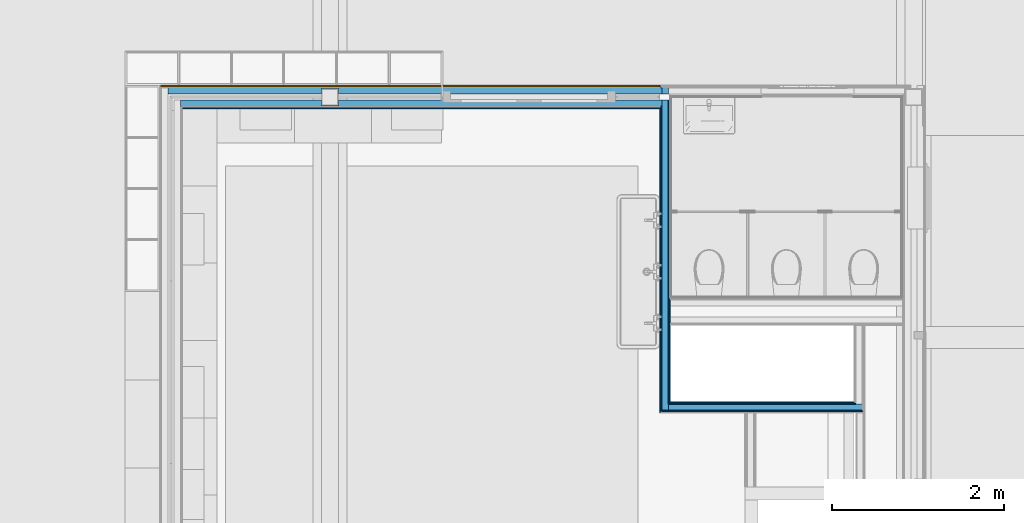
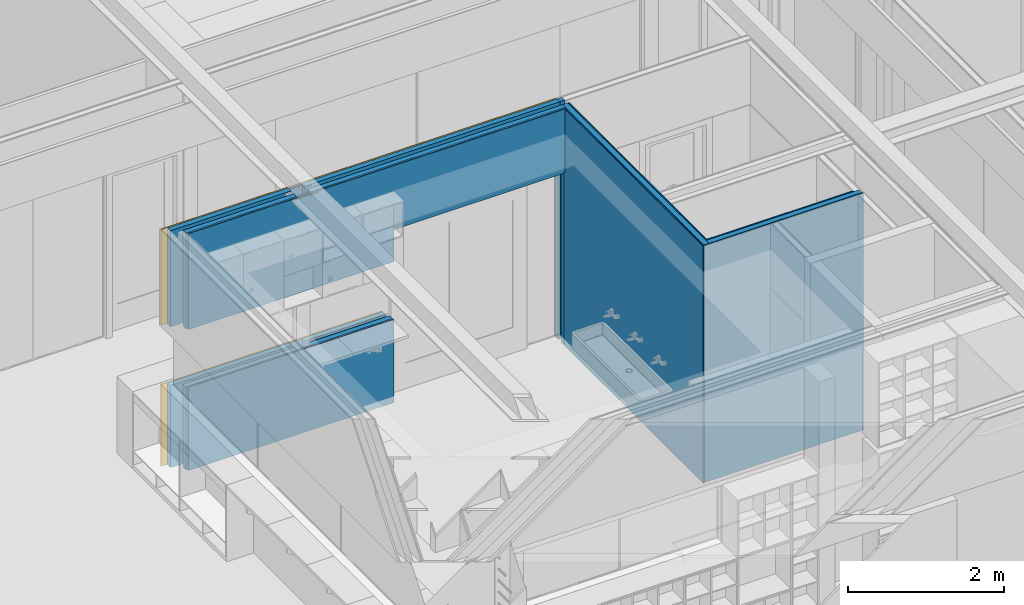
# One storey, part 85 of 137: 12 building element parts, 1 covering, 4 openings, 3 elements without a shape of their own.
"""IFC2X3 building model written with IfcOpenShell, lengths in millimetres."""

from ifc_helpers import new_model, entity, si_unit, converted_unit, derived_unit, money_unit, direction, frame, origin_with_axes, place, context, subcontext, project, spatial, faceted_brep, material, type_object, element, aggregate, save


model = new_model("IFC2X3")

# Units and contexts
model_context = context("Model", 3, precision=0.01, world=origin_with_axes(), true_north=direction((0.0, 1.0)))
body_context = subcontext(model_context, "Body", "Model", "MODEL_VIEW")
ifc_project = project(units=[si_unit("LENGTHUNIT", "METRE", prefix="MILLI"), si_unit("AREAUNIT", "SQUARE_METRE"), si_unit("VOLUMEUNIT", "CUBIC_METRE"), converted_unit("PLANEANGLEUNIT", "DEGREE", entity("IfcPlaneAngleMeasure", 0.0174532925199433), si_unit("PLANEANGLEUNIT", "RADIAN"), dimensions=[0, 0, 0, 0, 0, 0, 0]), money_unit("EUR"), converted_unit("TIMEUNIT", "Year", entity("IfcTimeMeasure", 31556926.0), si_unit("TIMEUNIT", "SECOND"), dimensions=[0, 0, 1, 0, 0, 0, 0]), si_unit("MASSUNIT", "GRAM", prefix="KILO"), si_unit("THERMODYNAMICTEMPERATUREUNIT", "DEGREE_CELSIUS"), si_unit("LUMINOUSINTENSITYUNIT", "LUMEN"), si_unit("ENERGYUNIT", "JOULE", prefix="MEGA"), derived_unit("THERMALCONDUCTANCEUNIT", [(si_unit("POWERUNIT", "WATT"), 1), (si_unit("LENGTHUNIT", "METRE"), -1), (si_unit("THERMODYNAMICTEMPERATUREUNIT", "KELVIN"), -1)]), derived_unit("SPECIFICHEATCAPACITYUNIT", [(si_unit("ENERGYUNIT", "JOULE"), 1), (si_unit("MASSUNIT", "GRAM", prefix="KILO"), -1), (si_unit("THERMODYNAMICTEMPERATUREUNIT", "KELVIN"), -1)]), derived_unit("MASSDENSITYUNIT", [(si_unit("MASSUNIT", "GRAM", prefix="KILO"), 1), (si_unit("VOLUMEUNIT", "CUBIC_METRE"), -1)])], contexts=[model_context])

# Site, building, storey
site_placement = place(None, origin_with_axes())
site = spatial("IfcSite", under=ifc_project, at=site_placement, Name="Site", CompositionType="ELEMENT")
building_placement = place(site_placement, origin_with_axes())
building = spatial("IfcBuilding", under=site, at=building_placement, Name="Naam gebouw", CompositionType="ELEMENT")
storey_placement = place(building_placement, frame((0.0, 0.0, 3960.0), z_axis=(0.0, 0.0, 1.0), x_axis=(1.0, 0.0, 0.0)))
storey = spatial("IfcBuildingStorey", under=building, at=storey_placement, Name="1e verdieping", CompositionType="ELEMENT", Elevation=3960.0)

# Proxy, openings, covering, building element parts
building_element_proxy_type_1 = type_object("IfcBuildingElementProxyType", Name="22 Metal stud 270 oregon pine 270", PredefinedType="NOTDEFINED")
proxy_1_placement = place(storey_placement, frame((15849.99908339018, 19449.9998112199, -100.0000000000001), z_axis=(0.0, 0.0, 1.0), x_axis=(1.0, 0.0, 0.0)))
proxy_1 = element("IfcBuildingElementProxy", 1, at=proxy_1_placement, inside=storey, type_object=building_element_proxy_type_1, Name="_Wand-x")
opening_1_placement = place(proxy_1_placement, frame((2557.500148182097, 0.0, 1300.0), z_axis=(0.0, 0.0, 1.0), x_axis=(1.0, 0.0, 0.0)))
element("IfcOpeningElement", 2, at=opening_1_placement, cuts=proxy_1, Name="_D.05", context=body_context, shape_type="Brep", body=[
    faceted_brep([(-807.5002251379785, 9.99999999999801, 0.0), (-807.5002251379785, 9.99999999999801, 900.0000000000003), (-807.5002251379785, 136.0000000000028, 900.0000000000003), (-807.5002251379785, 136.0000000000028, 0.0), (-807.5002251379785, -136.0000000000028, 0.0), (-807.5002251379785, -136.0000000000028, 900.0000000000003), (607.5002251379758, 9.99999999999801, 900.0000000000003), (607.5002251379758, 136.0000000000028, 900.0000000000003), (607.5002251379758, -136.0000000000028, 900.0000000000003), (607.5002251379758, 136.0000000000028, 0.0), (607.5002251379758, 9.99999999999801, 0.0), (607.5002251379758, -136.0000000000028, 0.0)], [[[0, 1, 2, 3]], [[1, 0, 4, 5]], [[6, 7, 2, 1, 5, 8]], [[7, 9, 3, 2]], [[0, 3, 9, 10, 11, 4]], [[5, 4, 11, 8]], [[6, 10, 9, 7]], [[10, 6, 8, 11]]]),
])
opening_2_placement = place(proxy_1_placement, frame((5432.50016496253, 0.0, 100.0000000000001), z_axis=(0.0, 0.0, 1.0), x_axis=(1.0, 0.0, 0.0)))
element("IfcOpeningElement", 3, at=opening_2_placement, cuts=proxy_1, Name="_B.12", context=body_context, shape_type="Brep", body=[
    faceted_brep([(-257.4997916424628, 9.99999999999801, -100.0000000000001), (-257.4997916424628, 9.99999999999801, 2600.0), (-257.4997916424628, 136.0000000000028, 2600.0), (-257.4997916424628, 136.0000000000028, -100.0000000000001), (-257.4997916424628, -136.0000000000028, -100.0000000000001), (-257.4997916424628, -136.0000000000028, 2600.0), (257.4997916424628, 9.99999999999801, 2600.0), (257.4997916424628, 136.0000000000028, 2600.0), (257.4997916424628, -136.0000000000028, 2600.0), (257.4997916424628, 136.0000000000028, -100.0000000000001), (257.4997916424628, 9.99999999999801, -100.0000000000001), (257.4997916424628, -136.0000000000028, -100.0000000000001)], [[[0, 1, 2, 3]], [[1, 0, 4, 5]], [[6, 7, 2, 1, 5, 8]], [[7, 9, 3, 2]], [[0, 3, 9, 10, 11, 4]], [[5, 4, 11, 8]], [[6, 10, 9, 7]], [[10, 6, 8, 11]]]),
])
opening_3_placement = place(proxy_1_placement, frame((879.9957715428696, 0.0, 1300.0), z_axis=(0.0, 0.0, 1.0), x_axis=(1.0, 0.0, 0.0)))
element("IfcOpeningElement", 4, at=opening_3_placement, cuts=proxy_1, Name="_D.03", context=body_context, shape_type="Brep", body=[
    faceted_brep([(-1015.004151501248, 135.0083722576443, 900.0000000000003), (-1015.004151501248, 136.0000000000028, 900.0000000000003), (-1015.004151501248, 136.0000000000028, 0.0), (-1015.004151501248, 135.0083722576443, 0.0), (870.0041515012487, 9.99999999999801, 900.0000000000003), (870.0041515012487, 136.0000000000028, 900.0000000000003), (-743.9957637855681, -136.0000000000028, 900.0000000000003), (870.0041515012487, -136.0000000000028, 900.0000000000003), (870.0041515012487, 136.0000000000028, 0.0), (870.0041515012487, 9.99999999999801, 0.0), (870.0041515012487, -136.0000000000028, 0.0), (-743.9957637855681, -136.0000000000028, 0.0)], [[[0, 1, 2, 3]], [[4, 5, 1, 0, 6, 7]], [[5, 8, 2, 1]], [[3, 2, 8, 9, 10, 11]], [[0, 3, 11, 6]], [[4, 9, 8, 5]], [[11, 10, 7, 6]], [[9, 4, 7, 10]]]),
])
opening_4_placement = place(proxy_1_placement, frame((4170.000373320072, 0.0, 100.0000000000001), z_axis=(0.0, 0.0, 1.0), x_axis=(1.0, 0.0, 0.0)))
element("IfcOpeningElement", 5, at=opening_4_placement, cuts=proxy_1, Name="_03.02", context=body_context, shape_type="Brep", body=[
    faceted_brep([(-1004.999999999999, 72.49999999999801, 2600.0), (1004.999999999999, 72.49999999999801, 2600.0), (1004.999999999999, 136.0000000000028, 2600.0), (-1004.999999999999, 136.0000000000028, 2600.0), (-1004.999999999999, -136.0000000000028, 2600.0), (1004.999999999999, -136.0000000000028, 2600.0), (1004.999999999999, 72.49999999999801, -100.0000000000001), (1004.999999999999, 136.0000000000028, -100.0000000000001), (-1004.999999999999, 136.0000000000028, -100.0000000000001), (-1004.999999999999, 72.49999999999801, -100.0000000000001), (-1004.999999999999, -136.0000000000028, -100.0000000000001), (1004.999999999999, -136.0000000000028, -100.0000000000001)], [[[0, 1, 2, 3]], [[1, 0, 4, 5]], [[1, 6, 7, 2]], [[2, 7, 8, 3]], [[9, 0, 3, 8]], [[0, 9, 10, 4]], [[4, 10, 11, 5]], [[6, 1, 5, 11]], [[6, 9, 8, 7]], [[9, 6, 11, 10]]]),
])
ifc_material_1 = material(Name="Hout - Multiplex Oregon Pine")
covering_placement = place(proxy_1_placement, origin_with_axes())
covering = element("IfcCovering", 6, at=covering_placement, material=ifc_material_1, Name="Hout - Multiplex Oregon Pine", PredefinedType="NOTDEFINED", context=body_context, shape_type="Brep", body=[
    faceted_brep([(-122.5000077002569, 134.999999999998, 1280.000000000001), (3145.000373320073, 134.999999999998, 1280.000000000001), (3145.000373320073, 134.999999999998, 100.0000000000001), (3165.000373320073, 134.999999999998, 100.0000000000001), (3165.000373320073, 135.0000000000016, 0.0), (-122.5000077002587, 135.0000000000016, 0.0), (3145.000373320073, 122.5000000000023, 1280.000000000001), (-122.5000069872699, 122.4999999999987, 1280.000000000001), (3145.000373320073, 122.5000000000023, 100.0000000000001), (3165.000373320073, 122.4999999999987, 100.0000000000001), (3165.000373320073, 122.4999999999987, 0.0), (-122.5000069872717, 122.4999999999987, 0.0)], [[[0, 1, 2, 3, 4, 5]], [[6, 1, 0, 7]], [[1, 6, 8, 2]], [[8, 9, 3, 2]], [[4, 3, 9, 10]], [[10, 11, 5, 4]], [[7, 0, 5, 11]], [[6, 7, 11, 10, 9, 8]]]),
    faceted_brep([(1749.999923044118, 122.5000000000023, 2200.0), (-122.5000069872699, 122.4999999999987, 2200.0), (-122.5000077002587, 135.0000193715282, 2200.0), (3165.000373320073, 135.0000000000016, 2200.0), (3165.000373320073, 122.5000000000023, 2200.0), (3165.000373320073, 122.5000000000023, 2700.0), (5175.000373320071, 122.5000000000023, 2700.0), (5689.999956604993, 122.5000000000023, 2700.0), (5689.999956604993, 122.5000000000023, 3700.0), (1951.000341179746, 122.4999999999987, 3700.0), (1951.000341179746, 122.5000000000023, 3695.000029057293), (2050.000341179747, 122.5000000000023, 3695.000029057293), (2050.000341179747, 122.5000000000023, 3675.000029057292), (1650.000341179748, 122.5000000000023, 3675.000029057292), (1650.000341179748, 122.5000000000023, 3695.000029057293), (1749.000341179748, 122.5000000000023, 3695.000029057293), (1749.000341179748, 122.4999999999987, 3700.0), (-122.5000069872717, 122.4999999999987, 3700.0), (-122.5000077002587, 135.0000000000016, 3700.0), (1749.000341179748, 135.0000000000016, 3700.0), (1749.000341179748, 135.0000000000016, 3695.000029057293), (1650.000341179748, 135.0000000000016, 3695.000029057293), (1650.000341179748, 135.0000000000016, 3675.000029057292), (2050.000341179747, 135.0000000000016, 3675.000029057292), (2050.000341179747, 135.0000000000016, 3695.000029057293), (1951.000341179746, 135.0000000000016, 3695.000029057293), (1951.000341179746, 135.0000000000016, 3700.0), (5689.999956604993, 135.0000000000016, 3700.0), (5689.999956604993, 135.0000000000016, 2700.0), (5175.000373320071, 135.0000000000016, 2700.0), (3165.000373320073, 135.0000000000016, 2700.0)], [[[0, 1, 2, 3, 4]], [[1, 0, 4, 5, 6, 7, 8, 9, 10, 11, 12, 13, 14, 15, 16, 17]], [[2, 1, 17, 18]], [[2, 18, 19, 20, 21, 22, 23, 24, 25, 26, 27, 28, 29, 30, 3]], [[4, 3, 30, 5]], [[5, 30, 29, 6]], [[7, 6, 29, 28]], [[7, 28, 27, 8]], [[8, 27, 26, 9]], [[25, 10, 9, 26]], [[11, 10, 25, 24]], [[12, 11, 24, 23]], [[13, 12, 23, 22]], [[14, 13, 22, 21]], [[15, 14, 21, 20]], [[16, 15, 20, 19]], [[18, 17, 16, 19]]]),
    faceted_brep([(1755.000341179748, 135.0000000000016, 3700.0), (1755.000341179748, 122.4999999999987, 3700.0), (1945.000341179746, 122.4999999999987, 3700.0), (1945.000341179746, 135.0000000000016, 3700.0), (1755.000341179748, 135.0000000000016, 3695.000029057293), (1755.000341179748, 122.5000000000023, 3695.000029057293), (1945.000341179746, 122.5000000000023, 3695.000029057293), (1945.000341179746, 135.0000000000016, 3695.000029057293)], [[[0, 1, 2, 3]], [[1, 0, 4, 5]], [[6, 2, 1, 5]], [[7, 3, 2, 6]], [[4, 0, 3, 7]], [[4, 7, 6, 5]]]),
])
ifc_material_2 = material(Name="ALG - LICHTE SCHEIDINGSWAND")
building_element_part_1_placement = place(proxy_1_placement, origin_with_axes())
building_element_part_1 = element("IfcBuildingElementPart", 7, at=building_element_part_1_placement, material=ifc_material_2, Name="ALG - LICHTE SCHEIDINGSWAND", context=body_context, shape_type="Brep", body=[
    faceted_brep([(-35.00000627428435, 109.9999999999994, 1280.000000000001), (3145.000373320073, 109.9999999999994, 1280.000000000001), (3145.000373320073, 109.9999999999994, 100.0000000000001), (3165.000373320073, 109.9999999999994, 100.0000000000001), (3165.000373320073, 109.9999999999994, 0.0), (-35.00000627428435, 109.9999999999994, 0.0), (3145.000373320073, 35.00000000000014, 1280.000000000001), (-35.00000199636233, 35.00000000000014, 1280.000000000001), (1749.999929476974, 35.00000000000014, 1280.000000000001), (1749.999929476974, 100.0000000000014, 1280.000000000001), (1950.000341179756, 100.0000000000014, 1280.000000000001), (1950.000341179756, 35.00000000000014, 1280.000000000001), (3145.000373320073, 35.00000000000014, 100.0000000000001), (3165.000373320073, 35.00000000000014, 100.0000000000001), (3165.000373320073, 72.49999999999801, 100.0000000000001), (3165.000373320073, 72.49999999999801, 0.0), (-35.00000199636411, 35.00000000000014, 0.0), (3165.000373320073, 35.00000000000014, 0.0), (1950.000341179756, 35.00000000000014, 0.0), (1950.000341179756, 100.0000000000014, 0.0), (1750.000341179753, 100.0000000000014, 0.0), (1750.000341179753, 35.00000000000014, 0.0)], [[[0, 1, 2, 3, 4, 5]], [[6, 1, 0, 7, 8, 9, 10, 11]], [[1, 6, 12, 2]], [[13, 14, 3, 2, 12]], [[4, 3, 14, 15]], [[16, 5, 4, 15, 17, 18, 19, 20, 21]], [[7, 0, 5, 16]], [[8, 7, 16, 21]], [[9, 8, 21, 20]], [[10, 9, 20, 19]], [[11, 10, 19, 18]], [[6, 11, 18, 17, 13, 12]], [[15, 14, 13, 17]]]),
    faceted_brep([(1950.000341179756, 35.00000000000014, 2200.0), (1950.000341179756, 100.0000000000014, 2200.0), (1749.999923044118, 100.0000000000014, 2200.0), (1749.999923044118, 35.00000000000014, 2200.0), (-35.00000199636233, 35.00000000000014, 2200.0), (-35.00000627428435, 109.9999999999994, 2200.0), (3165.000373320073, 109.9999999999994, 2200.0), (3165.000373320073, 72.49999999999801, 2200.0), (3165.000373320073, 35.00000000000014, 2200.0), (1950.000341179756, 35.00000000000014, 3675.000029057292), (1950.000341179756, 100.0000000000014, 3675.000029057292), (1750.000341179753, 100.0000000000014, 3675.000029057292), (1750.000341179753, 35.00000000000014, 3675.000029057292), (1749.000341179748, 35.00000000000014, 3700.0), (-35.00000199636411, 35.00000000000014, 3700.0), (1650.000341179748, 35.00000000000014, 3675.000029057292), (1650.000341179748, 35.00000000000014, 3695.000029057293), (1749.000341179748, 35.00000000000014, 3695.000029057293), (-35.00000627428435, 109.9999999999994, 3700.0), (3165.000373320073, 109.9999999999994, 2700.0), (1749.000341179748, 109.9999999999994, 3700.0), (1749.000341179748, 109.9999999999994, 3695.000029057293), (1650.000341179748, 109.9999999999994, 3695.000029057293), (1650.000341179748, 109.9999999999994, 3675.000029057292), (2050.000341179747, 109.9999999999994, 3675.000029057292), (2050.000341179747, 109.9999999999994, 3695.000029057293), (1951.000341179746, 109.9999999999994, 3695.000029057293), (1951.000341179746, 109.9999999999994, 3700.0), (5714.999956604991, 109.9999999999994, 3700.0), (5714.999956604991, 109.9999999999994, 0.0), (5689.999956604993, 109.9999999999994, 0.0), (5689.999956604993, 109.9999999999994, 2700.0), (5175.000373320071, 109.9999999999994, 2700.0), (3165.000373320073, 72.49999999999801, 2700.0), (3165.000373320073, 35.00000000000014, 2700.0), (5175.000373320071, 35.00000000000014, 2700.0), (5689.999956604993, 35.00000000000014, 2700.0), (5689.999956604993, 35.00000000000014, 0.0), (5714.999956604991, 35.00000000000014, 0.0), (5714.999956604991, 35.00000000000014, 3700.0), (1951.000341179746, 35.00000000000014, 3700.0), (1951.000341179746, 35.00000000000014, 3695.000029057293), (2050.000341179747, 35.00000000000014, 3695.000029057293), (2050.000341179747, 35.00000000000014, 3675.000029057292), (5175.000373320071, 72.49999999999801, 2700.0)], [[[0, 1, 2, 3, 4, 5, 6, 7, 8]], [[1, 0, 9, 10]], [[2, 1, 10, 11]], [[11, 12, 3, 2]], [[13, 14, 4, 3, 12, 15, 16, 17]], [[14, 18, 5, 4]], [[19, 6, 5, 18, 20, 21, 22, 23, 24, 25, 26, 27, 28, 29, 30, 31, 32]], [[7, 6, 19, 33]], [[33, 34, 8, 7]], [[9, 0, 8, 34, 35, 36, 37, 38, 39, 40, 41, 42, 43]], [[11, 10, 9, 43, 24, 23, 15, 12]], [[13, 20, 18, 14]], [[23, 22, 16, 15]], [[22, 21, 17, 16]], [[21, 20, 13, 17]], [[25, 24, 43, 42]], [[26, 25, 42, 41]], [[40, 27, 26, 41]], [[27, 40, 39, 28]], [[28, 39, 38, 29]], [[38, 37, 30, 29]], [[36, 31, 30, 37]], [[32, 31, 36, 35, 44]], [[33, 19, 32, 44]], [[44, 35, 34, 33]]]),
    faceted_brep([(1755.000341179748, 100.0000000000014, 3699.999999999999), (1945.000341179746, 100.0000000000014, 3699.999999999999), (1945.000341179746, 109.9999999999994, 3700.0), (1755.000341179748, 109.9999999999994, 3700.0), (1945.000341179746, 100.0000000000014, 3695.000029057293), (1755.000341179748, 100.0000000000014, 3695.000029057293), (1945.000341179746, 109.9999999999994, 3695.000029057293), (1755.000341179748, 109.9999999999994, 3695.000029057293)], [[[0, 1, 2, 3]], [[4, 1, 0, 5]], [[1, 4, 6, 2]], [[6, 7, 3, 2]], [[5, 0, 3, 7]], [[4, 5, 7, 6]]]),
])
building_element_part_2_placement = place(proxy_1_placement, origin_with_axes())
building_element_part_2 = element("IfcBuildingElementPart", 8, at=building_element_part_2_placement, material=ifc_material_2, Name="ALG - LICHTE SCHEIDINGSWAND", context=body_context, shape_type="Brep", body=[
    faceted_brep([(1950.000341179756, -35.00000000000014, 1300.0), (3145.000373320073, -35.00000000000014, 1300.000000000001), (3145.000373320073, -35.00000000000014, 100.0000000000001), (3165.000373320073, -35.00000000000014, 100.0000000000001), (3165.000373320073, -35.00000000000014, 0.0), (1950.000341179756, -35.00000000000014, 0.0), (3165.000373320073, -39.9999999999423, 1300.000000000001), (3145.000373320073, -39.9999999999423, 1300.000000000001), (1950.000341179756, -100.0000000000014, 1300.0), (1749.999923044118, -100.0000000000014, 1300.0), (1749.999923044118, -35.00000000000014, 1300.0), (110.0000019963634, -35.00000000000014, 1300.0), (110.0000062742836, -109.9999999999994, 1300.0), (3165.000373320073, -109.9999999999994, 1300.0), (3145.000373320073, -39.9999999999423, 100.0000000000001), (3165.000373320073, -39.9999999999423, 100.0000000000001), (3165.000373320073, -109.9999999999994, 0.0), (1750.000341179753, -100.0000000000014, 0.0), (1950.000341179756, -100.0000000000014, 0.0), (110.0000062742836, -109.9999999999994, 0.0), (110.0000019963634, -35.00000000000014, 0.0), (1750.000341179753, -35.00000000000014, 0.0)], [[[0, 1, 2, 3, 4, 5]], [[6, 7, 1, 0, 8, 9, 10, 11, 12, 13]], [[14, 2, 1, 7]], [[14, 15, 3, 2]], [[3, 15, 6, 13, 16, 4]], [[17, 18, 5, 4, 16, 19, 20, 21]], [[18, 8, 0, 5]], [[14, 7, 6, 15]], [[17, 9, 8, 18]], [[17, 21, 10, 9]], [[21, 20, 11, 10]], [[20, 19, 12, 11]], [[16, 13, 12, 19]]]),
    faceted_brep([(1750.000341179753, -35.00000000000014, 3675.000029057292), (1750.000341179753, -100.0000000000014, 3675.000029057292), (1749.999923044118, -100.0000000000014, 2200.0), (1749.999923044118, -35.00000000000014, 2200.0), (2050.000341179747, -109.9999999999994, 3675.000029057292), (2050.000341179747, -35.00000000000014, 3675.000029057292), (1950.000341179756, -35.00000000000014, 3675.000029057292), (1950.000341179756, -100.0000000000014, 3675.000029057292), (1650.000341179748, -35.00000000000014, 3675.000029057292), (1650.000341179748, -109.9999999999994, 3675.000029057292), (1950.000341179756, -100.0000000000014, 2200.0), (3165.000373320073, -35.00000000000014, 2200.0), (3165.000373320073, -109.9999999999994, 2200.0), (110.0000062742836, -109.9999999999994, 2200.0), (110.0000019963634, -35.00000000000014, 2200.0), (1950.000341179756, -35.00000000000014, 2200.0), (110.0000019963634, -35.00000000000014, 3700.0), (1749.000341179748, -35.00000000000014, 3700.0), (1749.000341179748, -35.00000000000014, 3695.000029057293), (1650.000341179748, -35.00000000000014, 3695.000029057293), (2050.000341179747, -109.9999999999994, 3695.000029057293), (2050.000341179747, -35.00000000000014, 3695.000029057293), (5689.999956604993, -35.00000000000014, 0.0), (5689.999956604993, -35.00000000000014, 2700.0), (5175.000373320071, -35.00000000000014, 2700.0), (3165.000373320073, -35.00000000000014, 2700.0), (1951.000341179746, -35.00000000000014, 3695.000029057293), (1951.000341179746, -35.00000000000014, 3700.0), (5714.999956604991, -35.00000000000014, 3700.0), (5714.999956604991, -35.00000000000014, 0.0), (1650.000341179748, -109.9999999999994, 3695.000029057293), (1749.000341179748, -109.9999999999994, 3700.0), (110.0000062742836, -109.9999999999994, 3700.0), (3165.000373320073, -109.9999999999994, 2700.0), (5175.000373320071, -109.9999999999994, 2700.0), (5689.999956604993, -109.9999999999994, 2700.0), (5689.999956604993, -109.9999999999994, 0.0), (5714.999956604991, -109.9999999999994, 0.0), (5714.999956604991, -109.9999999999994, 3700.0), (1951.000341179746, -109.9999999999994, 3700.0), (1951.000341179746, -109.9999999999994, 3695.000029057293), (1749.000341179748, -109.9999999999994, 3695.000029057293)], [[[0, 1, 2, 3]], [[4, 5, 6, 7, 1, 0, 8, 9]], [[7, 10, 2, 1]], [[11, 12, 13, 14, 3, 2, 10, 15]], [[8, 0, 3, 14, 16, 17, 18, 19]], [[20, 21, 5, 4]], [[22, 23, 24, 25, 11, 15, 6, 5, 21, 26, 27, 28, 29]], [[6, 15, 10, 7]], [[9, 8, 19, 30]], [[31, 32, 13, 12, 33, 34, 35, 36, 37, 38, 39, 40, 20, 4, 9, 30, 41]], [[25, 33, 12, 11]], [[32, 16, 14, 13]], [[32, 31, 17, 16]], [[41, 18, 17, 31]], [[30, 19, 18, 41]], [[40, 26, 21, 20]], [[36, 35, 23, 22]], [[24, 23, 35, 34]], [[24, 34, 33, 25]], [[40, 39, 27, 26]], [[28, 27, 39, 38]], [[29, 28, 38, 37]], [[29, 37, 36, 22]]]),
    faceted_brep([(1945.000341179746, -100.0000000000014, 3695.000029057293), (1945.000341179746, -100.0000000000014, 3699.999999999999), (1945.000341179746, -109.9999999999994, 3700.0), (1945.000341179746, -109.9999999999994, 3695.000029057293), (1755.000341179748, -100.0000000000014, 3699.999999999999), (1755.000341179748, -100.0000000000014, 3695.000029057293), (1755.000341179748, -109.9999999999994, 3700.0), (1755.000341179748, -109.9999999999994, 3695.000029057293)], [[[0, 1, 2, 3]], [[4, 1, 0, 5]], [[1, 4, 6, 2]], [[7, 3, 2, 6]], [[5, 0, 3, 7]], [[4, 5, 7, 6]]]),
])
ifc_material_3 = material(Name="Gipsplaat")
building_element_part_3_placement = place(proxy_1_placement, origin_with_axes())
building_element_part_3 = element("IfcBuildingElementPart", 9, at=building_element_part_3_placement, material=ifc_material_3, Name="Gipsplaat", context=body_context, shape_type="Brep", body=[
    faceted_brep([(135.000006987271, -122.4999999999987, 0.0), (135.000006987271, -122.4999999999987, 1300.0), (3165.000373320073, -122.4999999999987, 1300.0), (3165.000373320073, -122.4999999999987, 0.0), (135.000007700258, -135.0000000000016, 0.0), (135.0000077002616, -135.0000000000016, 1300.0), (3165.000373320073, -134.999999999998, 1300.0), (3165.000373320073, -134.999999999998, 0.0)], [[[0, 1, 2, 3]], [[4, 5, 1, 0]], [[2, 1, 5, 6]], [[6, 7, 3, 2]], [[4, 0, 3, 7]], [[6, 5, 4, 7]]]),
    faceted_brep([(3165.000373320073, -134.999999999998, 2200.0), (135.0000077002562, -134.999999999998, 2200.0), (135.000006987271, -122.4999999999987, 2200.0), (1749.999923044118, -122.4999999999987, 2200.0), (3165.000373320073, -122.4999999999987, 2200.0), (3165.000373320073, -134.999999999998, 2700.0), (5175.000373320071, -134.999999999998, 2700.0), (5689.999956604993, -134.999999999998, 2700.0), (5689.999956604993, -134.999999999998, 3700.0), (1951.000341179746, -134.999999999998, 3700.0), (1951.000341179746, -134.999999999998, 3695.000029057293), (2050.000341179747, -134.999999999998, 3695.000029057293), (2050.000341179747, -134.999999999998, 3675.000029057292), (1650.000341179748, -134.999999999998, 3675.000029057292), (1650.000341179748, -134.999999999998, 3695.000029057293), (1749.000341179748, -134.999999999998, 3695.000029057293), (1749.000341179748, -134.999999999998, 3700.0), (135.000007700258, -134.999999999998, 3700.0), (135.000006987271, -122.4999999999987, 3700.0), (1749.000341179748, -122.4999999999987, 3700.0), (1749.000341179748, -122.4999999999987, 3695.000029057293), (1650.000341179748, -122.4999999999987, 3695.000029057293), (1650.000341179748, -122.4999999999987, 3675.000029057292), (2050.000341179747, -122.4999999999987, 3675.000029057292), (2050.000341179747, -122.4999999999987, 3695.000029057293), (1951.000341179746, -122.4999999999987, 3695.000029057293), (1951.000341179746, -122.4999999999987, 3700.0), (5689.999956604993, -122.4999999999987, 3700.0), (5689.999956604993, -122.4999999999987, 2700.0), (5175.000373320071, -122.4999999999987, 2700.0), (3165.000373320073, -122.4999999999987, 2700.0)], [[[0, 1, 2, 3, 4]], [[1, 0, 5, 6, 7, 8, 9, 10, 11, 12, 13, 14, 15, 16, 17]], [[2, 1, 17, 18]], [[3, 2, 18, 19, 20, 21, 22, 23, 24, 25, 26, 27, 28, 29, 30, 4]], [[0, 4, 30, 5]], [[5, 30, 29, 6]], [[7, 6, 29, 28]], [[7, 28, 27, 8]], [[8, 27, 26, 9]], [[25, 10, 9, 26]], [[11, 10, 25, 24]], [[12, 11, 24, 23]], [[13, 12, 23, 22]], [[14, 13, 22, 21]], [[15, 14, 21, 20]], [[16, 15, 20, 19]], [[18, 17, 16, 19]]]),
    faceted_brep([(1755.000341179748, -122.4999999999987, 3700.0), (1755.000341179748, -134.999999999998, 3700.0), (1945.000341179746, -134.999999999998, 3700.0), (1945.000341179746, -122.4999999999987, 3700.0), (1755.000341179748, -122.4999999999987, 3695.000029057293), (1755.000341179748, -134.999999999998, 3695.000029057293), (1945.000341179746, -134.999999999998, 3695.000029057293), (1945.000341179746, -122.4999999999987, 3695.000029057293)], [[[0, 1, 2, 3]], [[1, 0, 4, 5]], [[6, 2, 1, 5]], [[7, 3, 2, 6]], [[4, 0, 3, 7]], [[4, 7, 6, 5]]]),
])
aggregate(proxy_1, [building_element_part_1, building_element_part_2, building_element_part_3, covering])

# Proxy, building element parts
building_element_proxy_type_2 = type_object("IfcBuildingElementProxyType", Name="22 Metal stud 125 gips 125", PredefinedType="NOTDEFINED")
proxy_2_placement = place(storey_placement, frame((21539.99903999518, 19584.9998112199, -100.0000000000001), z_axis=(0.0, 0.0, 1.0), x_axis=(0.0, -1.0, 0.0)))
proxy_2 = element("IfcBuildingElementProxy", 10, at=proxy_2_placement, inside=storey, type_object=building_element_proxy_type_2, Name="_Wand-x")
building_element_part_4_placement = place(proxy_2_placement, origin_with_axes())
building_element_part_4 = element("IfcBuildingElementPart", 11, at=building_element_part_4_placement, material=ifc_material_3, Name="Gipsplaat", context=body_context, shape_type="Brep", body=[
    faceted_brep([(3697.50202953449, 112.5000000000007, 0.0), (169.9999999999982, 112.5000000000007, 0.0), (169.9999999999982, 125.0, 0.0), (3697.502029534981, 125.0, 0.0), (3697.50202953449, 112.5000000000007, 3700.0), (169.9999999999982, 112.5000000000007, 3700.0), (169.9999999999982, 125.0, 3700.0), (3697.502029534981, 125.0, 3700.0)], [[[0, 1, 2, 3]], [[4, 5, 1, 0]], [[2, 1, 5, 6]], [[3, 2, 6, 7]], [[3, 7, 4, 0]], [[7, 6, 5, 4]]]),
])
building_element_part_5_placement = place(proxy_2_placement, origin_with_axes())
building_element_part_5 = element("IfcBuildingElementPart", 12, at=building_element_part_5_placement, material=ifc_material_3, Name="Gipsplaat", context=body_context, shape_type="Brep", body=[
    faceted_brep([(3710.002029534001, 99.99999999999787, 0.0), (169.9999999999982, 100.0000000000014, 0.0), (169.9999999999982, 112.5000000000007, 0.0), (3710.002029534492, 112.5000000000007, 0.0), (3710.002029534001, 100.0000000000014, 3700.0), (169.9999999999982, 100.0000000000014, 3700.0), (169.9999999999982, 112.5000000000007, 3700.0), (3710.002029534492, 112.5000000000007, 3700.0)], [[[0, 1, 2, 3]], [[4, 5, 1, 0]], [[2, 1, 5, 6]], [[3, 2, 6, 7]], [[3, 7, 4, 0]], [[7, 6, 5, 4]]]),
])
building_element_part_6_placement = place(proxy_2_placement, origin_with_axes())
building_element_part_6 = element("IfcBuildingElementPart", 13, at=building_element_part_6_placement, material=ifc_material_2, Name="ALG - LICHTE SCHEIDINGSWAND", context=body_context, shape_type="Brep", body=[
    faceted_brep([(99.99999999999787, 24.99999999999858, 0.0), (24.99999999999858, 24.99999999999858, 0.0), (24.99999999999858, 100.0000000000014, 0.0), (99.99999999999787, 100.0000000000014, 0.0), (99.99999999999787, 24.99999999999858, 3700.0), (24.99999999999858, 24.99999999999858, 3700.0), (24.99999999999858, 100.0000000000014, 3700.0), (99.99999999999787, 100.0000000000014, 3700.0)], [[[0, 1, 2, 3]], [[4, 5, 1, 0]], [[2, 1, 5, 6]], [[3, 2, 6, 7]], [[3, 7, 4, 0]], [[7, 6, 5, 4]]]),
    faceted_brep([(3785.002029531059, 24.99999999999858, 0.0), (169.9999999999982, 24.99999999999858, 0.0), (169.9999999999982, 100.0000000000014, 0.0), (3785.002029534, 99.99999999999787, 0.0), (3785.002029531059, 24.99999999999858, 3700.0), (169.9999999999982, 24.99999999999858, 3700.0), (169.9999999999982, 100.0000000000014, 3700.0), (3785.002029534, 100.0000000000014, 3700.0)], [[[0, 1, 2, 3]], [[4, 5, 1, 0]], [[2, 1, 5, 6]], [[3, 2, 6, 7]], [[3, 7, 4, 0]], [[7, 6, 5, 4]]]),
])
building_element_part_7_placement = place(proxy_2_placement, origin_with_axes())
building_element_part_7 = element("IfcBuildingElementPart", 14, at=building_element_part_7_placement, material=ifc_material_3, Name="Gipsplaat", context=body_context, shape_type="Brep", body=[
    faceted_brep([(24.99999999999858, 12.49999999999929, 0.0), (12.49999999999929, 12.49999999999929, 0.0), (12.49999999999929, 24.99999999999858, 0.0), (24.99999999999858, 24.99999999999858, 0.0), (24.99999999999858, 12.49999999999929, 3700.0), (12.49999999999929, 12.49999999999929, 3700.0), (12.49999999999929, 24.99999999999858, 3700.0), (24.99999999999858, 24.99999999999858, 3700.0)], [[[0, 1, 2, 3]], [[4, 5, 1, 0]], [[2, 1, 5, 6]], [[3, 2, 6, 7]], [[3, 7, 4, 0]], [[7, 6, 5, 4]]]),
    faceted_brep([(3797.502029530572, 12.49999999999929, 0.0), (244.9999999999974, 12.49999999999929, 0.0), (244.9999999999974, 24.99999999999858, 0.0), (3797.50202953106, 24.99999999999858, 0.0), (3797.502029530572, 12.49999999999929, 3700.0), (244.9999999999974, 12.49999999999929, 3700.0), (244.9999999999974, 24.99999999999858, 3700.0), (3797.50202953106, 24.99999999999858, 3700.0)], [[[0, 1, 2, 3]], [[4, 5, 1, 0]], [[2, 1, 5, 6]], [[3, 2, 6, 7]], [[3, 7, 4, 0]], [[7, 6, 5, 4]]]),
])
building_element_part_8_placement = place(proxy_2_placement, origin_with_axes())
building_element_part_8 = element("IfcBuildingElementPart", 15, at=building_element_part_8_placement, material=ifc_material_3, Name="Gipsplaat", context=body_context, shape_type="Brep", body=[
    faceted_brep([(12.49999999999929, 0.0, 0.0), (0.0, 0.0, 0.0), (0.0, 12.49999999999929, 0.0), (12.49999999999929, 12.49999999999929, 0.0), (12.49999999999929, 0.0, 3700.0), (0.0, 0.0, 3700.0), (0.0, 12.49999999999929, 3700.0), (12.49999999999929, 12.49999999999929, 3700.0)], [[[0, 1, 2, 3]], [[4, 5, 1, 0]], [[2, 1, 5, 6]], [[3, 2, 6, 7]], [[3, 7, 4, 0]], [[7, 6, 5, 4]]]),
    faceted_brep([(3810.002029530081, 0.0, 0.0), (257.4999999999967, 0.0, 0.0), (257.4999999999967, 12.49999999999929, 0.0), (3810.002029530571, 12.49999999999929, 0.0), (3810.002029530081, 0.0, 3700.0), (257.4999999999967, 0.0, 3700.0), (257.4999999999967, 12.49999999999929, 3700.0), (3810.002029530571, 12.49999999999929, 3700.0)], [[[0, 1, 2, 3]], [[4, 5, 1, 0]], [[2, 1, 5, 6]], [[3, 2, 6, 7]], [[3, 7, 4, 0]], [[7, 6, 5, 4]]]),
])
aggregate(proxy_2, [building_element_part_4, building_element_part_5, building_element_part_6, building_element_part_7, building_element_part_8])

proxy_3_placement = place(storey_placement, frame((21539.99903999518, 15774.99778168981, -100.0000000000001), z_axis=(0.0, 0.0, 1.0), x_axis=(1.0, 0.0, 0.0)))
proxy_3 = element("IfcBuildingElementProxy", 16, at=proxy_3_placement, inside=storey, type_object=building_element_proxy_type_2, Name="_Wand-x")
building_element_part_9_placement = place(proxy_3_placement, origin_with_axes())
building_element_part_9 = element("IfcBuildingElementPart", 17, at=building_element_part_9_placement, material=ifc_material_3, Name="Gipsplaat", context=body_context, shape_type="Brep", body=[
    faceted_brep([(2272.499999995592, 112.5000000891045, 0.0), (124.9999999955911, 112.5000000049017, 0.0), (124.9999999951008, 125.000000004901, 0.0), (2272.499999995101, 125.0000000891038, 0.0), (2272.499999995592, 112.5000000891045, 3700.0), (124.9999999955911, 112.5000000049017, 3700.0), (124.9999999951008, 125.000000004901, 3700.0), (2272.499999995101, 125.0000000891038, 3700.0)], [[[0, 1, 2, 3]], [[4, 5, 1, 0]], [[2, 1, 5, 6]], [[3, 2, 6, 7]], [[3, 7, 4, 0]], [[7, 6, 5, 4]]]),
])
building_element_part_10_placement = place(proxy_3_placement, origin_with_axes())
building_element_part_10 = element("IfcBuildingElementPart", 18, at=building_element_part_10_placement, material=ifc_material_3, Name="Gipsplaat", context=body_context, shape_type="Brep", body=[
    faceted_brep([(2284.999999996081, 100.000000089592, 0.0), (112.4999999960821, 100.0000000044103, 0.0), (112.4999999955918, 112.5000000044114, 0.0), (2284.999999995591, 112.500000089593, 0.0), (2284.999999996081, 100.000000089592, 3700.0), (112.4999999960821, 100.0000000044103, 3700.0), (112.4999999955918, 112.5000000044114, 3700.0), (2284.999999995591, 112.500000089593, 3700.0)], [[[0, 1, 2, 3]], [[4, 5, 1, 0]], [[2, 1, 5, 6]], [[3, 2, 6, 7]], [[3, 7, 4, 0]], [[7, 6, 5, 4]]]),
])
building_element_part_11_placement = place(proxy_3_placement, origin_with_axes())
building_element_part_11 = element("IfcBuildingElementPart", 19, at=building_element_part_11_placement, material=ifc_material_3, Name="Gipsplaat", context=body_context, shape_type="Brep", body=[
    faceted_brep([(2372.499999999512, 12.50000009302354, 0.0), (24.9999999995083, 12.50000000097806, 0.0), (24.99999999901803, 25.00000000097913, 0.0), (2372.499999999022, 25.00000009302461, 0.0), (2372.499999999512, 12.50000009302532, 3700.0), (24.9999999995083, 12.50000000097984, 3700.0), (24.99999999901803, 25.00000000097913, 3700.0), (2372.499999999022, 25.00000009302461, 3700.0)], [[[0, 1, 2, 3]], [[4, 5, 1, 0]], [[2, 1, 5, 6]], [[3, 2, 6, 7]], [[3, 7, 4, 0]], [[7, 6, 5, 4]]]),
])
building_element_part_12_placement = place(proxy_3_placement, origin_with_axes())
building_element_part_12 = element("IfcBuildingElementPart", 20, at=building_element_part_12_placement, material=ifc_material_2, Name="ALG - LICHTE SCHEIDINGSWAND", context=body_context, shape_type="Brep", body=[
    faceted_brep([(2359.999999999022, 25.00000009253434, 0.0), (99.99999999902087, 25.00000000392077, 0.0), (99.99999999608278, 100.0000000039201, 0.0), (2359.999999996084, 100.0000000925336, 0.0), (2359.999999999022, 25.00000009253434, 3700.0), (99.99999999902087, 25.00000000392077, 3700.0), (99.99999999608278, 100.0000000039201, 3700.0), (2359.999999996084, 100.0000000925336, 3700.0)], [[[0, 1, 2, 3]], [[4, 5, 1, 0]], [[2, 1, 5, 6]], [[3, 2, 6, 7]], [[3, 7, 4, 0]], [[7, 6, 5, 4]]]),
])
aggregate(proxy_3, [building_element_part_9, building_element_part_10, building_element_part_11, building_element_part_12])

save(model, "model.ifc")
